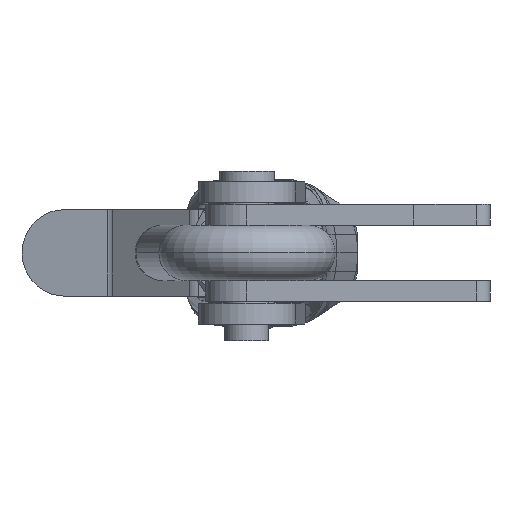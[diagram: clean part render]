
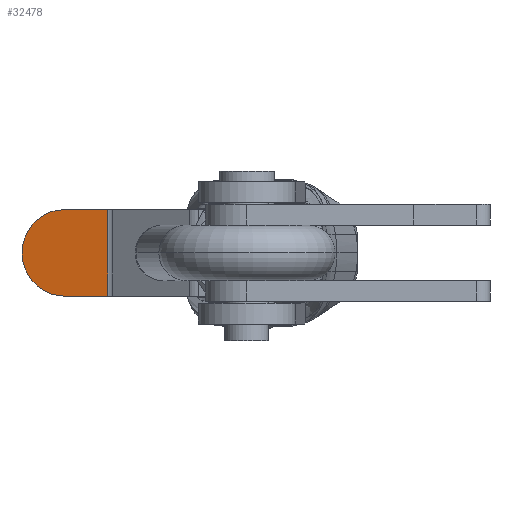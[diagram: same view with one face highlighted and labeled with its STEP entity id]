
A CAD part, left-side view. The second image highlights one B-rep face of the part: STEP entity #32478.
In plain terms, the highlighted planar face has unit normal (-0.982, 0.19, 0) as drawn and (0, -1, 0) by its records, which use the part's own axes.
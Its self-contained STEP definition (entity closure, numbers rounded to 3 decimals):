
#945 = VERTEX_POINT ( 'NONE', #13577 ) ;
#2848 = CARTESIAN_POINT ( 'NONE',  ( -26.519, 6.5, 6.25 ) ) ;
#3897 = VERTEX_POINT ( 'NONE', #19353 ) ;
#4491 = FACE_OUTER_BOUND ( 'NONE', #8870, .T. ) ;
#4850 = AXIS2_PLACEMENT_3D ( 'NONE', #2848, #22908, #7795 ) ;
#6655 = VERTEX_POINT ( 'NONE', #9641 ) ;
#7073 = ORIENTED_EDGE ( 'NONE', *, *, #27336, .T. ) ;
#7795 = DIRECTION ( 'NONE',  ( 1., 0., 0. ) ) ;
#8381 = VECTOR ( 'NONE', #29479, 1000. ) ;
#8503 = ORIENTED_EDGE ( 'NONE', *, *, #31272, .F. ) ;
#8870 = EDGE_LOOP ( 'NONE', ( #7073, #27948, #31169, #8503 ) ) ;
#9641 = CARTESIAN_POINT ( 'NONE',  ( -26.86, 6.5, 6.25 ) ) ;
#9650 = CARTESIAN_POINT ( 'NONE',  ( -26.86, 6.5, -6.25 ) ) ;
#11234 = CARTESIAN_POINT ( 'NONE',  ( -33.269, 6.5, 0. ) ) ;
#12243 = CIRCLE ( 'NONE', #13602, 6.25 ) ;
#12524 = EDGE_CURVE ( 'NONE', #25481, #945, #19764, .T. ) ;
#13577 = CARTESIAN_POINT ( 'NONE',  ( -33.269, 6.5, -6.25 ) ) ;
#13602 = AXIS2_PLACEMENT_3D ( 'NONE', #11234, #28864, #13786 ) ;
#13786 = DIRECTION ( 'NONE',  ( 1., 0., 0. ) ) ;
#17234 = VECTOR ( 'NONE', #26771, 1000. ) ;
#18623 = DIRECTION ( 'NONE',  ( -1., 0., 0. ) ) ;
#19353 = CARTESIAN_POINT ( 'NONE',  ( -33.269, 6.5, 6.25 ) ) ;
#19764 = LINE ( 'NONE', #25881, #27267 ) ;
#20357 = PLANE ( 'NONE',  #4850 ) ;
#21676 = CARTESIAN_POINT ( 'NONE',  ( -26.519, 6.5, 6.25 ) ) ;
#21830 = EDGE_CURVE ( 'NONE', #3897, #945, #12243, .T. ) ;
#21854 = CARTESIAN_POINT ( 'NONE',  ( -26.86, 6.5, 6.25 ) ) ;
#22908 = DIRECTION ( 'NONE',  ( 0., -1., 0. ) ) ;
#23906 = LINE ( 'NONE', #21676, #17234 ) ;
#25481 = VERTEX_POINT ( 'NONE', #9650 ) ;
#25881 = CARTESIAN_POINT ( 'NONE',  ( -26.519, 6.5, -6.25 ) ) ;
#26771 = DIRECTION ( 'NONE',  ( -1., 0., 0. ) ) ;
#27267 = VECTOR ( 'NONE', #18623, 1000. ) ;
#27336 = EDGE_CURVE ( 'NONE', #6655, #3897, #23906, .T. ) ;
#27948 = ORIENTED_EDGE ( 'NONE', *, *, #21830, .T. ) ;
#28495 = LINE ( 'NONE', #21854, #8381 ) ;
#28864 = DIRECTION ( 'NONE',  ( 0., -1., 0. ) ) ;
#29479 = DIRECTION ( 'NONE',  ( 0., 0., -1. ) ) ;
#31169 = ORIENTED_EDGE ( 'NONE', *, *, #12524, .F. ) ;
#31272 = EDGE_CURVE ( 'NONE', #6655, #25481, #28495, .T. ) ;
#32478 = ADVANCED_FACE ( 'NONE', ( #4491 ), #20357, .T. ) ;
